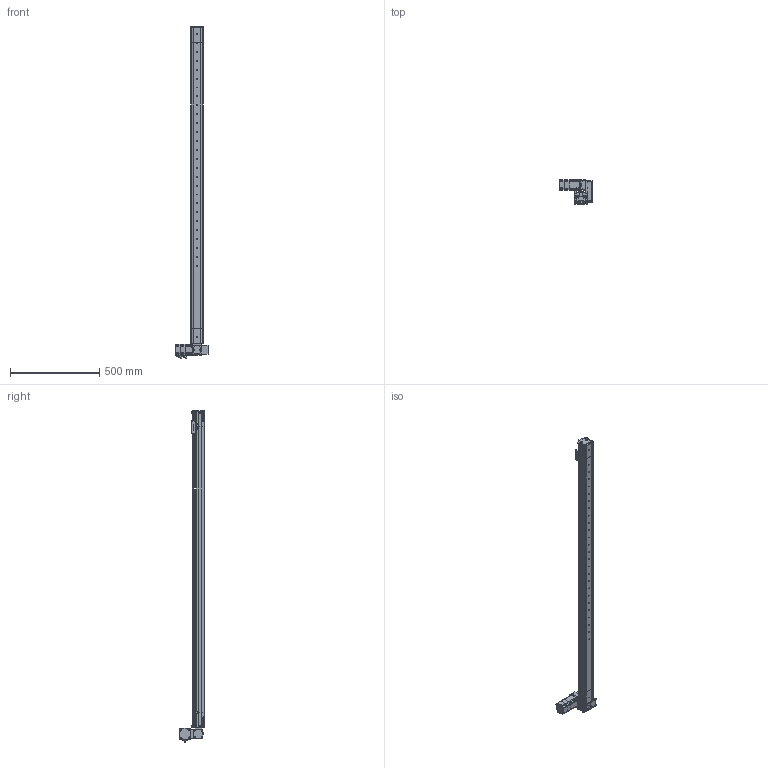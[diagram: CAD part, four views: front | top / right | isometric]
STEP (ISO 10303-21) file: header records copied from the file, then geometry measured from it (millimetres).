
FILE_DESCRIPTION (( 'STEP AP214' ), '1' );
FILE_NAME ('S07 TBN LT S1600.STEP', '2010-06-29T12:14:59', ( 'Conseil Régional Haute-Normandie' ), ( 'Conseil Régional Haute-Normandie' ), 'SwSTEP 2.0', 'SolidWorks 2010', '' );
FILE_SCHEMA (( 'AUTOMOTIVE_DESIGN' ));
Length unit declared in the file: millimetre
Products named in the file (41): Axe 60BLDC_Default; vis M5 L16_Default; Chariot; vis M5 L12_Default; Poulie_Default; T皻e de poulie_Default; guide; CHariot_Default; couroie tail_Default; couvercle tail TB; plaque de bout_Default; Cvis M5 L30_Default; VisM3_Default; Conecteur2 60BLDC_Default; corp tail TB_Default; S07 TB tail (78)_Default; Vis M5 L16-2_Default; Conecteur 60BLDC_Default; S07 TBN LT S1600; Couroie  course 1600_Default; Corp S07 course 1600_Default; Course C L1600_Default; corp moteur TB(146)_Default; S07 LT(146)_Default; couvercle S07 course 1600 ; cache t皻e axe_Default; couvercle moteur S07 TB; plaque de bout LT_Default; vis M5 L5_Default; cache t皻e_Default; Poulie head_Default; Plaque racord_Default; Couroie t皻e_Default; Pièce5^S07 LT(146); P1_Default; GMB 60 90 310_Default; renvoi LT_Default; P4_Default; P3 90A_Default; P2 90A_Default
Assembly tree (80 placements, depth 4):
  S07 TBN LT S1600
    S07 TB tail (78)_Default
      Poulie_Default
        Poulie_Default
        T皻e de poulie_Default
      vis M5 L12_Default  x10
      plaque de bout_Default
      couvercle tail TB
      corp tail TB_Default
      couroie tail_Default
    CHariot_Default
      Chariot
      guide
      vis M5 L16_Default  x2
    Course C L1600_Default
      Corp S07 course 1600_Default
      couvercle S07 course 1600 
      Couroie  course 1600_Default
    S07 LT(146)_Default
      Cvis M5 L30_Default  x2
      Vis M5 L16-2_Default  x8
      vis M5 L12_Default  x6
      vis M5 L5_Default  x6
      corp moteur TB(146)_Default
      plaque de bout LT_Default
      cache t皻e_Default  x2
      Couroie t皻e_Default
      renvoi LT_Default
      cache t皻e axe_Default
      couvercle moteur S07 TB
      GMB 60 90 310_Default
        VisM3_Default  x12
        Conecteur2 60BLDC_Default
        Axe 60BLDC_Default
        P2 90A_Default
        Conecteur 60BLDC_Default
        P4_Default
        P3 90A_Default
        P1_Default
      Plaque racord_Default
      Poulie head_Default
  Pièce5^S07 LT(146)
Bounding box: 190.2 x 139.5 x 1862 mm (x, y, z)
Volume: 3595656.9 mm3; surface area: 1575281.5 mm2
Topology: 102 solids, 102 shells, 3950 faces, 9822 edges, 6345 vertices
Faces by surface type: plane 2239, cylinder 781, bspline 677, cone 125, torus 124, sphere 4
Entity records: 167921 total; most frequent: CARTESIAN_POINT 75311, ORIENTED_EDGE 15556, DIRECTION 12439, EDGE_CURVE 7778, VERTEX_POINT 5133, VECTOR 5061, LINE 5061, AXIS2_PLACEMENT_3D 3689
